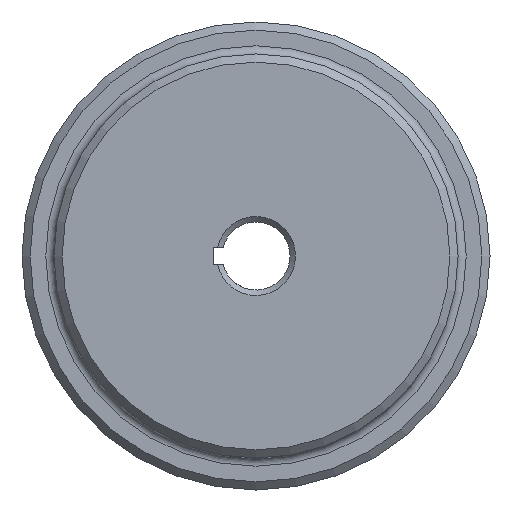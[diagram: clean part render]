
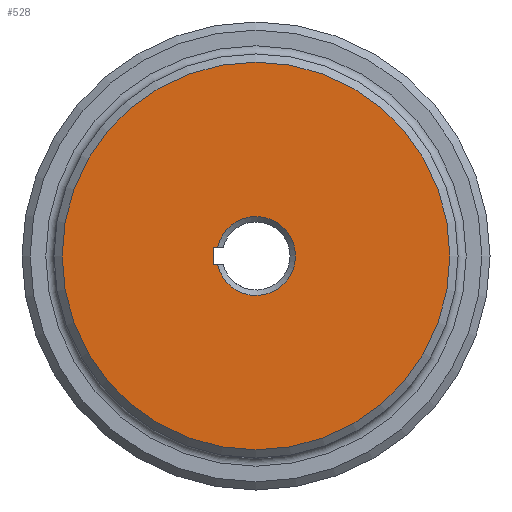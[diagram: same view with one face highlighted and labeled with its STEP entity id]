
A CAD part, left-side view. The second image highlights one B-rep face of the part: STEP entity #528.
In plain terms, the highlighted planar face has unit normal (-1, 0, 0).
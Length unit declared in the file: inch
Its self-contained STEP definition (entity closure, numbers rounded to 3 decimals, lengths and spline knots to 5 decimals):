
#15 = CARTESIAN_POINT ( 'NONE',  ( 0., 0.31085, 0.0625 ) ) ;
#21 = VERTEX_POINT ( 'NONE', #1288 ) ;
#32 = CARTESIAN_POINT ( 'NONE',  ( 0., 0., 0. ) ) ;
#36 = DIRECTION ( 'NONE',  ( 0., 1., 0. ) ) ;
#133 = CIRCLE ( 'NONE', #1680, 1.425 ) ;
#299 = DIRECTION ( 'NONE',  ( 1., 0., 0. ) ) ;
#301 = DIRECTION ( 'NONE',  ( 1., 0., 0. ) ) ;
#343 = CARTESIAN_POINT ( 'NONE',  ( 0., 0.28334, 0.0625 ) ) ;
#373 = DIRECTION ( 'NONE',  ( 0., 0., -1. ) ) ;
#377 = CARTESIAN_POINT ( 'NONE',  ( 0., 0.31085, -0.0625 ) ) ;
#402 = VECTOR ( 'NONE', #36, 39.37008 ) ;
#406 = VERTEX_POINT ( 'NONE', #15 ) ;
#444 = CARTESIAN_POINT ( 'NONE',  ( 0., 0.31085, -0.0625 ) ) ;
#463 = CARTESIAN_POINT ( 'NONE',  ( 0., 0., 0. ) ) ;
#528 = ADVANCED_FACE ( 'NONE', ( #1971, #2390 ), #577, .F. ) ;
#550 = LINE ( 'NONE', #838, #1441 ) ;
#577 = PLANE ( 'NONE',  #2058 ) ;
#611 = LINE ( 'NONE', #2056, #402 ) ;
#655 = CIRCLE ( 'NONE', #2193, 0.29015 ) ;
#753 = EDGE_CURVE ( 'NONE', #1479, #21, #655, .T. ) ;
#838 = CARTESIAN_POINT ( 'NONE',  ( 0., 0., -0.0625 ) ) ;
#936 = VERTEX_POINT ( 'NONE', #377 ) ;
#1003 = EDGE_CURVE ( 'NONE', #936, #21, #550, .T. ) ;
#1029 = VECTOR ( 'NONE', #1906, 39.37008 ) ;
#1054 = DIRECTION ( 'NONE',  ( -1., 0., 0. ) ) ;
#1059 = CARTESIAN_POINT ( 'NONE',  ( 0., 0., -1.425 ) ) ;
#1066 = EDGE_CURVE ( 'NONE', #406, #936, #2069, .T. ) ;
#1168 = CARTESIAN_POINT ( 'NONE',  ( 0., 0., 0. ) ) ;
#1225 = ORIENTED_EDGE ( 'NONE', *, *, #1066, .F. ) ;
#1288 = CARTESIAN_POINT ( 'NONE',  ( 0., 0.28334, -0.0625 ) ) ;
#1441 = VECTOR ( 'NONE', #2205, 39.37008 ) ;
#1462 = EDGE_LOOP ( 'NONE', ( #1815, #2228, #1594, #1225 ) ) ;
#1479 = VERTEX_POINT ( 'NONE', #343 ) ;
#1494 = DIRECTION ( 'NONE',  ( 0., 0., -1. ) ) ;
#1594 = ORIENTED_EDGE ( 'NONE', *, *, #1003, .F. ) ;
#1680 = AXIS2_PLACEMENT_3D ( 'NONE', #1168, #1054, #1946 ) ;
#1815 = ORIENTED_EDGE ( 'NONE', *, *, #1921, .F. ) ;
#1849 = EDGE_LOOP ( 'NONE', ( #2354 ) ) ;
#1906 = DIRECTION ( 'NONE',  ( 0., 0., -1. ) ) ;
#1921 = EDGE_CURVE ( 'NONE', #1479, #406, #611, .T. ) ;
#1946 = DIRECTION ( 'NONE',  ( 0., 0., -1. ) ) ;
#1971 = FACE_OUTER_BOUND ( 'NONE', #1849, .T. ) ;
#2056 = CARTESIAN_POINT ( 'NONE',  ( 0., 0., 0.0625 ) ) ;
#2058 = AXIS2_PLACEMENT_3D ( 'NONE', #463, #301, #1494 ) ;
#2069 = LINE ( 'NONE', #444, #1029 ) ;
#2193 = AXIS2_PLACEMENT_3D ( 'NONE', #32, #299, #373 ) ;
#2205 = DIRECTION ( 'NONE',  ( 0., -1., 0. ) ) ;
#2228 = ORIENTED_EDGE ( 'NONE', *, *, #753, .T. ) ;
#2287 = EDGE_CURVE ( 'NONE', #2333, #2333, #133, .T. ) ;
#2333 = VERTEX_POINT ( 'NONE', #1059 ) ;
#2354 = ORIENTED_EDGE ( 'NONE', *, *, #2287, .T. ) ;
#2390 = FACE_BOUND ( 'NONE', #1462, .T. ) ;
